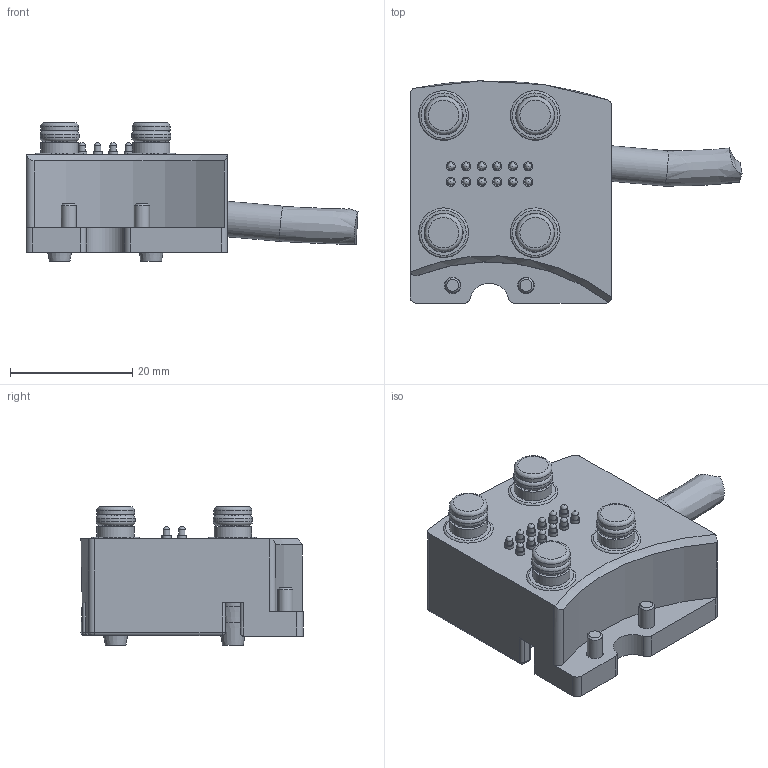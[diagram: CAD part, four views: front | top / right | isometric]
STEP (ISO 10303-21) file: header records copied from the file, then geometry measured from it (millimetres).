
FILE_DESCRIPTION(/* description */ (''),/* implementation_level */ '2;1');
FILE_NAME(/* name */ 'T:\CAD\Neuentwicklungen\MEK063-R\Vereinfachung\4 - 3-D-CAD\4 - 3D-CAD MEK063-U-4PR4-1FE12 Zsm.stp',/* time_stamp */ '2018-01-31T10:30:17+01:00',/* author */ ('vbednarz'),/* organization */ (''),/* preprocessor_version */ 'ST-DEVELOPER v16.13',/* originating_system */ 'Autodesk Inventor 2018',/* authorisation */ '');
FILE_SCHEMA (('AUTOMOTIVE_DESIGN { 1 0 10303 214 3 1 1 }'));
Length unit declared in the file: millimetre
Products named in the file (1): MEK063-U-4PR4-1FE12 Zsm_Shrinkwrap_1
Bounding box: 54.37 x 36.38 x 22.7 mm (x, y, z)
Volume: 16258 mm3; surface area: 7830.2 mm2
Topology: 1 solids, 1 shells, 345 faces, 726 edges, 464 vertices
Faces by surface type: plane 153, cylinder 101, torus 32, cone 28, bspline 17, sphere 14
Full cylindrical faces by diameter (mm): 1.07 x12, 1.5 x12, 2.5 x2, 2.7 x2, 3.5 x8, 4.5 x5, 5 x5, 5.8 x1, 6.15 x4, 6.2 x4, 6.4 x4, 7.4 x4
Entity records: 9356 total; most frequent: CARTESIAN_POINT 2032, DIRECTION 1535, ORIENTED_EDGE 1186, AXIS2_PLACEMENT_3D 681, EDGE_CURVE 593, EDGE_LOOP 539, VERTEX_POINT 444, CIRCLE 349
